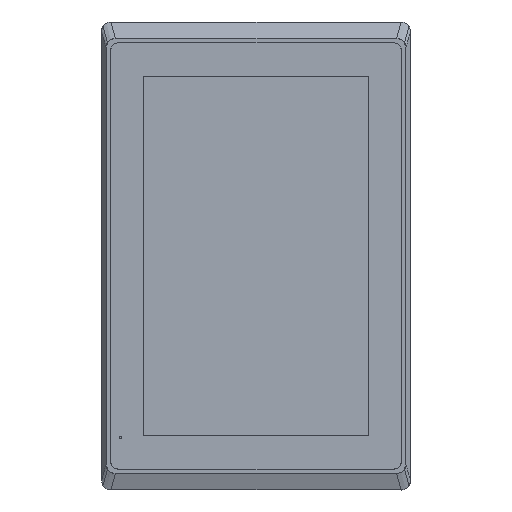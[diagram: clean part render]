
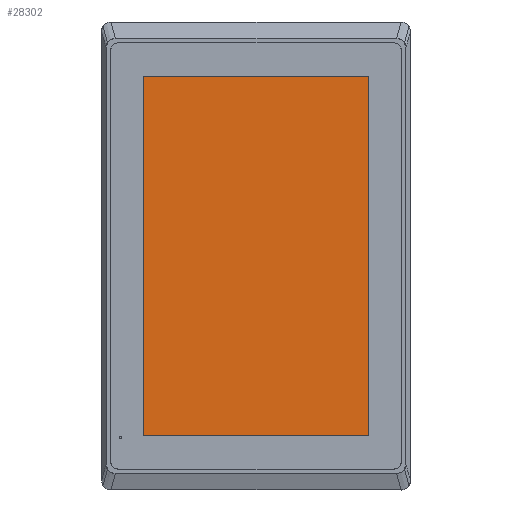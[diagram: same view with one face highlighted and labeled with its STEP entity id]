
A CAD part, top view. The second image highlights one B-rep face of the part: STEP entity #28302.
In plain terms, the highlighted planar face has unit normal (0, 0, 1).
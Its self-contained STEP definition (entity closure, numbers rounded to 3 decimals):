
#3485=DIRECTION('',(1.,0.,0.));
#3486=VECTOR('',#3485,156.);
#3487=CARTESIAN_POINT('',(-78.,121.38,17.5));
#3488=LINE('',#3487,#3486);
#3489=DIRECTION('',(0.,-1.,0.));
#3490=VECTOR('',#3489,241.96);
#3491=CARTESIAN_POINT('',(78.,121.38,17.5));
#3492=LINE('',#3491,#3490);
#3493=DIRECTION('',(-1.,0.,0.));
#3494=VECTOR('',#3493,156.);
#3495=CARTESIAN_POINT('',(78.,-120.58,17.5));
#3496=LINE('',#3495,#3494);
#3497=DIRECTION('',(0.,1.,0.));
#3498=VECTOR('',#3497,241.96);
#3499=CARTESIAN_POINT('',(-78.,-120.58,17.5));
#3500=LINE('',#3499,#3498);
#22054=CARTESIAN_POINT('',(-78.,121.38,17.5));
#22055=CARTESIAN_POINT('',(78.,121.38,17.5));
#22056=VERTEX_POINT('',#22054);
#22057=VERTEX_POINT('',#22055);
#22058=CARTESIAN_POINT('',(-78.,-120.58,17.5));
#22059=VERTEX_POINT('',#22058);
#22060=CARTESIAN_POINT('',(78.,-120.58,17.5));
#22061=VERTEX_POINT('',#22060);
#28287=CARTESIAN_POINT('',(0.,0.,17.5));
#28288=DIRECTION('',(0.,0.,1.));
#28289=DIRECTION('',(0.,1.,0.));
#28290=AXIS2_PLACEMENT_3D('',#28287,#28288,#28289);
#28291=PLANE('',#28290);
#28293=ORIENTED_EDGE('',*,*,#28292,.T.);
#28295=ORIENTED_EDGE('',*,*,#28294,.T.);
#28297=ORIENTED_EDGE('',*,*,#28296,.T.);
#28299=ORIENTED_EDGE('',*,*,#28298,.T.);
#28300=EDGE_LOOP('',(#28293,#28295,#28297,#28299));
#28301=FACE_OUTER_BOUND('',#28300,.F.);
#28302=ADVANCED_FACE('',(#28301),#28291,.T.);
#28292=EDGE_CURVE('',#22056,#22057,#3488,.T.);
#28294=EDGE_CURVE('',#22057,#22061,#3492,.T.);
#28296=EDGE_CURVE('',#22061,#22059,#3496,.T.);
#28298=EDGE_CURVE('',#22059,#22056,#3500,.T.);
